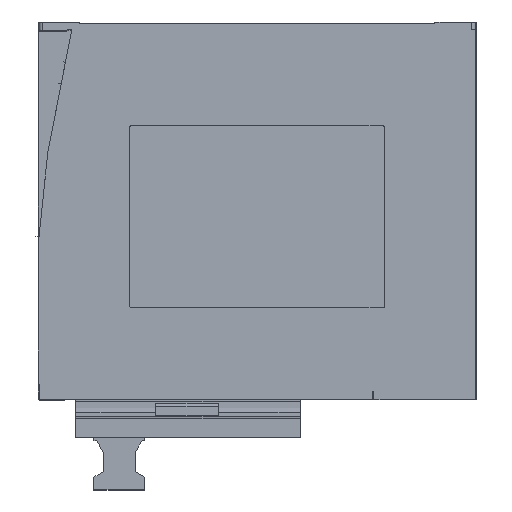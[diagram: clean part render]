
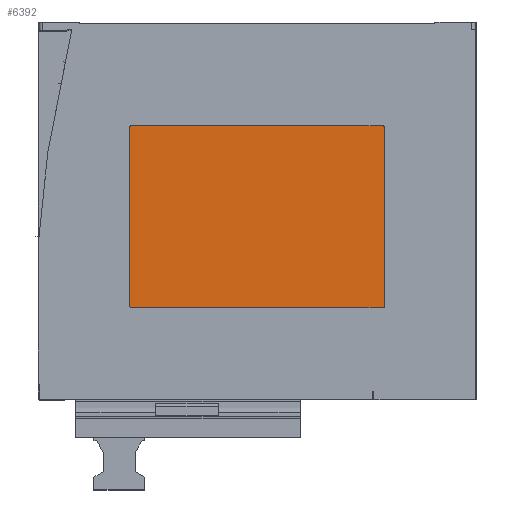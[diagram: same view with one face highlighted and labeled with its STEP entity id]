
A CAD part, top view. The second image highlights one B-rep face of the part: STEP entity #6392.
In plain terms, the highlighted planar face has unit normal (0, 0, 1).
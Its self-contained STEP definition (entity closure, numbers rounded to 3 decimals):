
#2060=DIRECTION('',(0.,1.,0.));
#2061=VECTOR('',#2060,65.56);
#2062=CARTESIAN_POINT('',(46.408,34.067,18.));
#2063=LINE('',#2062,#2061);
#2076=DIRECTION('',(1.,0.,0.));
#2077=VECTOR('',#2076,92.06);
#2078=CARTESIAN_POINT('',(-46.122,33.597,18.));
#2079=LINE('',#2078,#2077);
#2092=DIRECTION('',(0.,-1.,0.));
#2093=VECTOR('',#2092,65.56);
#2094=CARTESIAN_POINT('',(-46.592,99.628,18.));
#2095=LINE('',#2094,#2093);
#2108=DIRECTION('',(-1.,0.,0.));
#2109=VECTOR('',#2108,92.06);
#2110=CARTESIAN_POINT('',(45.938,100.097,18.));
#2111=LINE('',#2110,#2109);
#2112=CARTESIAN_POINT('',(45.938,100.097,18.));
#2113=CARTESIAN_POINT('',(46.069,100.097,18.));
#2114=CARTESIAN_POINT('',(46.182,100.055,18.));
#2115=CARTESIAN_POINT('',(46.274,99.963,18.));
#2117=CARTESIAN_POINT('',(46.274,99.963,18.));
#2118=CARTESIAN_POINT('',(46.366,99.871,18.));
#2119=CARTESIAN_POINT('',(46.408,99.758,18.));
#2120=CARTESIAN_POINT('',(46.408,99.628,18.));
#2122=CARTESIAN_POINT('',(46.408,34.067,18.));
#2123=CARTESIAN_POINT('',(46.408,33.937,18.));
#2124=CARTESIAN_POINT('',(46.366,33.824,18.));
#2125=CARTESIAN_POINT('',(46.274,33.732,18.));
#2127=CARTESIAN_POINT('',(46.274,33.732,18.));
#2128=CARTESIAN_POINT('',(46.182,33.64,18.));
#2129=CARTESIAN_POINT('',(46.069,33.597,18.));
#2130=CARTESIAN_POINT('',(45.938,33.597,18.));
#2132=CARTESIAN_POINT('',(-46.122,33.597,18.));
#2133=CARTESIAN_POINT('',(-46.252,33.597,18.));
#2134=CARTESIAN_POINT('',(-46.365,33.64,18.));
#2135=CARTESIAN_POINT('',(-46.457,33.732,18.));
#2137=CARTESIAN_POINT('',(-46.457,33.732,18.));
#2138=CARTESIAN_POINT('',(-46.55,33.824,18.));
#2139=CARTESIAN_POINT('',(-46.592,33.937,18.));
#2140=CARTESIAN_POINT('',(-46.592,34.067,18.));
#2142=CARTESIAN_POINT('',(-46.592,99.628,18.));
#2143=CARTESIAN_POINT('',(-46.592,99.758,18.));
#2144=CARTESIAN_POINT('',(-46.55,99.871,18.));
#2145=CARTESIAN_POINT('',(-46.457,99.963,18.));
#2147=CARTESIAN_POINT('',(-46.457,99.963,18.));
#2148=CARTESIAN_POINT('',(-46.365,100.055,18.));
#2149=CARTESIAN_POINT('',(-46.252,100.097,18.));
#2150=CARTESIAN_POINT('',(-46.122,100.097,18.));
#3638=CARTESIAN_POINT('',(46.408,99.628,18.));
#3639=VERTEX_POINT('',#3638);
#3640=VERTEX_POINT('',#2112);
#3641=VERTEX_POINT('',#2115);
#3642=CARTESIAN_POINT('',(46.408,34.067,18.));
#3643=VERTEX_POINT('',#3642);
#3644=CARTESIAN_POINT('',(45.938,33.597,18.));
#3645=VERTEX_POINT('',#3644);
#3646=VERTEX_POINT('',#2125);
#3647=CARTESIAN_POINT('',(-46.122,33.597,18.));
#3648=VERTEX_POINT('',#3647);
#3649=CARTESIAN_POINT('',(-46.592,34.067,18.));
#3650=VERTEX_POINT('',#3649);
#3651=VERTEX_POINT('',#2135);
#3652=CARTESIAN_POINT('',(-46.592,99.628,18.));
#3653=VERTEX_POINT('',#3652);
#3654=CARTESIAN_POINT('',(-46.122,100.097,18.));
#3655=VERTEX_POINT('',#3654);
#3656=VERTEX_POINT('',#2145);
#6373=CARTESIAN_POINT('',(0.,0.,18.));
#6374=DIRECTION('',(0.,0.,1.));
#6375=DIRECTION('',(1.,0.,0.));
#6376=AXIS2_PLACEMENT_3D('',#6373,#6374,#6375);
#6377=PLANE('',#6376);
#6378=ORIENTED_EDGE('',*,*,#6251,.T.);
#6379=ORIENTED_EDGE('',*,*,#6249,.T.);
#6380=ORIENTED_EDGE('',*,*,#6266,.F.);
#6381=ORIENTED_EDGE('',*,*,#6286,.T.);
#6382=ORIENTED_EDGE('',*,*,#6284,.T.);
#6383=ORIENTED_EDGE('',*,*,#6300,.F.);
#6384=ORIENTED_EDGE('',*,*,#6320,.T.);
#6385=ORIENTED_EDGE('',*,*,#6318,.T.);
#6386=ORIENTED_EDGE('',*,*,#6334,.F.);
#6387=ORIENTED_EDGE('',*,*,#6354,.T.);
#6388=ORIENTED_EDGE('',*,*,#6352,.T.);
#6389=ORIENTED_EDGE('',*,*,#6367,.F.);
#6390=EDGE_LOOP('',(#6378,#6379,#6380,#6381,#6382,#6383,#6384,#6385,#6386,#6387,
#6388,#6389));
#6391=FACE_OUTER_BOUND('',#6390,.F.);
#6392=ADVANCED_FACE('',(#6391),#6377,.T.);
#2116=B_SPLINE_CURVE_WITH_KNOTS('',3,(#2112,#2113,#2114,#2115),.UNSPECIFIED.,
.F.,.F.,(4,4),(0.,1.),.UNSPECIFIED.);
#2121=B_SPLINE_CURVE_WITH_KNOTS('',3,(#2117,#2118,#2119,#2120),.UNSPECIFIED.,
.F.,.F.,(4,4),(0.,1.),.UNSPECIFIED.);
#2126=B_SPLINE_CURVE_WITH_KNOTS('',3,(#2122,#2123,#2124,#2125),.UNSPECIFIED.,
.F.,.F.,(4,4),(0.,1.),.UNSPECIFIED.);
#2131=B_SPLINE_CURVE_WITH_KNOTS('',3,(#2127,#2128,#2129,#2130),.UNSPECIFIED.,
.F.,.F.,(4,4),(0.,1.),.UNSPECIFIED.);
#2136=B_SPLINE_CURVE_WITH_KNOTS('',3,(#2132,#2133,#2134,#2135),.UNSPECIFIED.,
.F.,.F.,(4,4),(0.,1.),.UNSPECIFIED.);
#2141=B_SPLINE_CURVE_WITH_KNOTS('',3,(#2137,#2138,#2139,#2140),.UNSPECIFIED.,
.F.,.F.,(4,4),(0.,1.),.UNSPECIFIED.);
#2146=B_SPLINE_CURVE_WITH_KNOTS('',3,(#2142,#2143,#2144,#2145),.UNSPECIFIED.,
.F.,.F.,(4,4),(0.,1.),.UNSPECIFIED.);
#2151=B_SPLINE_CURVE_WITH_KNOTS('',3,(#2147,#2148,#2149,#2150),.UNSPECIFIED.,
.F.,.F.,(4,4),(0.,1.),.UNSPECIFIED.);
#6249=EDGE_CURVE('',#3641,#3639,#2121,.T.);
#6251=EDGE_CURVE('',#3640,#3641,#2116,.T.);
#6266=EDGE_CURVE('',#3643,#3639,#2063,.T.);
#6284=EDGE_CURVE('',#3646,#3645,#2131,.T.);
#6286=EDGE_CURVE('',#3643,#3646,#2126,.T.);
#6300=EDGE_CURVE('',#3648,#3645,#2079,.T.);
#6318=EDGE_CURVE('',#3651,#3650,#2141,.T.);
#6320=EDGE_CURVE('',#3648,#3651,#2136,.T.);
#6334=EDGE_CURVE('',#3653,#3650,#2095,.T.);
#6352=EDGE_CURVE('',#3656,#3655,#2151,.T.);
#6354=EDGE_CURVE('',#3653,#3656,#2146,.T.);
#6367=EDGE_CURVE('',#3640,#3655,#2111,.T.);
